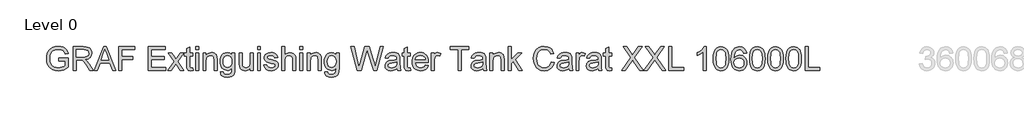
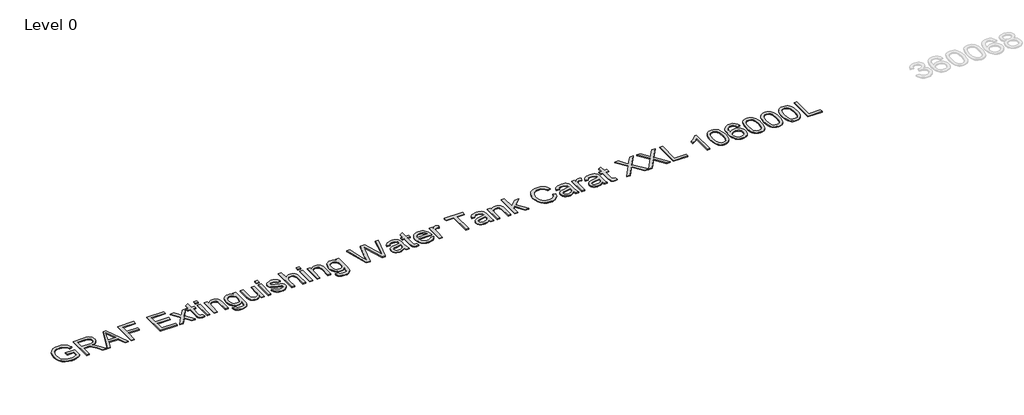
# One storey, part 23 of 37: 1 proxy.
"""IFC4 building model written with IfcOpenShell, lengths in millimetres."""

from ifc_helpers import new_model, si_unit, origin, origin_with_axes, place, context, project, spatial, polyline, outline, extrude, element, save

model = new_model("IFC4")

# Units and contexts
model_context = context("Model", 3, world=origin())
ifc_project = project(units=[si_unit("LENGTHUNIT", "METRE", prefix="MILLI")], contexts=[model_context])

# Site, building, storey
site = spatial("IfcSite", under=ifc_project)
building = spatial("IfcBuilding", under=site)
storey = spatial("IfcBuildingStorey", under=building, Name="Level 0", Elevation=0.0)

# Proxy
placement = place(None, origin())
element("IfcBuildingElementProxy", 1, Name="300mm Arial", ObjectType="300mm Arial", at=placement, inside=storey, context=model_context, shape_type="SweptSolid", body=[
    extrude(outline(polyline([(16759.0059613, -29583.2545597), (16759.0059613, -29545.5834434), (16881.4370893, -29545.5834434), (16881.4370893, -29658.2289103), (16851.6846329, -29678.9222726), (16820.9940775, -29693.7663111), (16789.4389993, -29702.7058436), (16757.0929749, -29705.6856877), (16714.8325307, -29700.949207), (16676.6371825, -29686.739765), (16644.9073605, -29663.5540022), (16622.0434945, -29631.8885595), (16608.2203285, -29593.9047435), (16603.6126065, -29551.7638609), (16608.2019344, -29509.3194757), (16621.9699181, -29469.8365406), (16644.3463404, -29436.717964), (16674.7609844, -29413.3666543), (16711.8067013, -29399.5158972), (16754.0763425, -29394.8989782), (16785.1071888, -29397.5753197), (16813.0110382, -29405.6043443), (16836.5095006, -29418.4066377), (16854.3241862, -29435.4027859), (16867.5035587, -29457.4113262), (16877.0960817, -29485.2507962), (16842.3680214, -29495.0364573), (16834.6149083, -29475.1800266), (16825.1879322, -29460.1980323), (16812.7167326, -29448.9040551), (16795.830949, -29440.1116754), (16775.6986068, -29434.4554897), (16753.4877313, -29432.5700945), (16727.4876713, -29434.6026425), (16705.2584018, -29440.7002866), (16686.8826961, -29450.0996716), (16672.4433278, -29462.0374423), (16653.0559467, -29491.0633317), (16644.2267788, -29519.50061), (16641.2837228, -29550.2187566), (16644.824587, -29586.2436009), (16655.4471796, -29615.8856927), (16672.8296039, -29638.9334997), (16696.6499631, -29655.1754898), (16724.5262213, -29664.804801), (16754.0763425, -29668.0145714), (16780.168373, -29665.5957473), (16805.6166101, -29658.3392749), (16827.7171209, -29648.3420817), (16843.765973, -29637.701095), (16843.765973, -29583.2545597), (16759.0059613, -29583.2545597)])), origin_with_axes(), (0.0, 0.0, 1.0), 10.0),
    extrude(outline(polyline([(16942.6526533, -29700.9767982), (16942.6526533, -29399.6078677), (17072.5149976, -29399.6078677), (17107.4178018, -29401.6404158), (17132.8108566, -29407.7380598), (17151.3705032, -29418.9952489), (17165.7730833, -29436.5064318), (17175.0161185, -29458.2206666), (17178.0971302, -29482.087011), (17172.9927675, -29511.7750881), (17157.6796794, -29536.3863935), (17146.0799003, -29546.4157764), (17131.6980135, -29554.4310054), (17094.5879173, -29564.4190016), (17115.9986494, -29580.532233), (17146.532855, -29619.3069952), (17196.7855355, -29700.9767982), (17153.0075781, -29700.9767982), (17113.7913574, -29638.5104354), (17085.4644438, -29597.1604991), (17065.5620278, -29577.6259652), (17047.6461747, -29570.4522663), (17025.7939842, -29569.1278911), (16980.3237696, -29569.1278911), (16980.3237696, -29700.9767982), (16942.6526533, -29700.9767982)]), holes=[polyline([(16980.3237696, -29531.4567748), (17064.6423229, -29531.4567748), (17088.8581552, -29530.1232026), (17107.6477281, -29526.1224859), (17121.7927908, -29519.1879103), (17132.0750926, -29509.0527613), (17138.3382835, -29496.7930938), (17140.4260139, -29483.4849626), (17136.4436913, -29465.109257), (17124.4967235, -29450.3020067), (17103.941317, -29440.5347397), (17074.1336783, -29437.278984), (16980.3237696, -29437.278984), (16980.3237696, -29531.4567748)])]), origin_with_axes(), (0.0, 0.0, 1.0), 10.0),
    extrude(outline(polyline([(17208.9256414, -29700.9767982), (17329.2230538, -29399.6078677), (17361.3023638, -29399.6078677), (17481.5997762, -29700.9767982), (17441.7949443, -29700.9767982), (17407.2876132, -29606.7990074), (17283.164228, -29606.7990074), (17248.7304732, -29700.9767982), (17208.9256414, -29700.9767982)]), holes=[polyline([(17296.996591, -29569.1278911), (17393.5288265, -29569.1278911), (17366.3791353, -29495.0364573), (17345.2627088, -29437.278984), (17326.500727, -29488.5617342), (17296.996591, -29569.1278911)])]), origin_with_axes(), (0.0, 0.0, 1.0), 10.0),
    extrude(outline(polyline([(17521.8460665, -29700.9767982), (17521.8460665, -29399.6078677), (17724.3283166, -29399.6078677), (17724.3283166, -29437.278984), (17559.5171828, -29437.278984), (17559.5171828, -29526.7478853), (17700.7838689, -29526.7478853), (17700.7838689, -29564.4190016), (17559.5171828, -29564.4190016), (17559.5171828, -29700.9767982), (17521.8460665, -29700.9767982)])), origin_with_axes(), (0.0, 0.0, 1.0), 10.0),
    extrude(outline(polyline([(17893.84834, -29700.9767982), (17893.84834, -29399.6078677), (18110.4572587, -29399.6078677), (18110.4572587, -29437.278984), (17931.5194563, -29437.278984), (17931.5194563, -29526.7478853), (18101.0394797, -29526.7478853), (18101.0394797, -29564.4190016), (17931.5194563, -29564.4190016), (17931.5194563, -29663.3056819), (18115.1661483, -29663.3056819), (18115.1661483, -29700.9767982), (17893.84834, -29700.9767982)])), origin_with_axes(), (0.0, 0.0, 1.0), 10.0),
    extrude(outline(polyline([(18143.4194855, -29700.9767982), (18223.9120661, -29589.7292828), (18148.1283751, -29479.6589899), (18193.4514369, -29479.6589899), (18230.0189072, -29532.6339972), (18247.0886318, -29557.6499729), (18261.877488, -29537.1957339), (18303.5217298, -29479.6589899), (18348.8447916, -29479.6589899), (18269.2351279, -29589.7292828), (18345.9017357, -29700.9767982), (18300.5786739, -29700.9767982), (18254.4462717, -29634.0958515), (18245.9849858, -29621.8821692), (18188.7425473, -29700.9767982), (18143.4194855, -29700.9767982)])), origin_with_axes(), (0.0, 0.0, 1.0), 10.0),
    extrude(outline(polyline([(18458.9150846, -29669.5596758), (18463.6239741, -29702.0804442), (18435.4442133, -29705.6856877), (18417.3628132, -29704.1221892), (18403.8799381, -29699.4316938), (18394.3517944, -29692.2028126), (18388.1345887, -29683.0241568), (18384.7132861, -29667.2604133), (18383.572852, -29640.276269), (18383.572852, -29517.3301062), (18355.3195147, -29517.3301062), (18355.3195147, -29479.6589899), (18383.572852, -29479.6589899), (18383.572852, -29425.8746422), (18421.2439683, -29403.7281461), (18421.2439683, -29479.6589899), (18458.9150846, -29479.6589899), (18458.9150846, -29517.3301062), (18421.2439683, -29517.3301062), (18421.2439683, -29639.172623), (18423.230531, -29658.5967923), (18429.668466, -29665.4761856), (18442.5075476, -29668.0145714), (18458.9150846, -29669.5596758)])), origin_with_axes(), (0.0, 0.0, 1.0), 10.0),
    extrude(outline(polyline([(18496.5862009, -29437.278984), (18496.5862009, -29399.6078677), (18534.2573172, -29399.6078677), (18534.2573172, -29437.278984), (18496.5862009, -29437.278984)])), origin_with_axes(), (0.0, 0.0, 1.0), 10.0),
    extrude(outline(polyline([(18496.5862009, -29700.9767982), (18496.5862009, -29479.6589899), (18534.2573172, -29479.6589899), (18534.2573172, -29700.9767982), (18496.5862009, -29700.9767982)])), origin_with_axes(), (0.0, 0.0, 1.0), 10.0),
    extrude(outline(polyline([(18590.7639916, -29700.9767982), (18590.7639916, -29479.6589899), (18628.435108, -29479.6589899), (18628.435108, -29510.5610775), (18641.5225099, -29494.981275), (18657.2402682, -29483.8528446), (18675.5883827, -29477.1757864), (18696.5668535, -29474.9501003), (18715.1356972, -29476.7435251), (18732.1410424, -29482.1237992), (18746.3228933, -29490.4195382), (18756.4212541, -29500.9593574), (18767.7152313, -29528.6608716), (18769.7017941, -29565.0811892), (18769.7017941, -29700.9767982), (18732.0306778, -29700.9767982), (18732.0306778, -29570.1579607), (18727.6896703, -29536.8278519), (18721.6839967, -29526.9042351), (18712.3489911, -29519.2063044), (18700.3836292, -29514.2674886), (18686.4868868, -29512.6212166), (18664.4231641, -29516.3184307), (18645.6151971, -29527.4100729), (18638.0989081, -29536.4645685), (18632.7301302, -29548.8391991), (18628.435108, -29583.5488653), (18628.435108, -29700.9767982), (18590.7639916, -29700.9767982)])), origin_with_axes(), (0.0, 0.0, 1.0), 10.0),
    extrude(outline(polyline([(18812.0817999, -29719.8123563), (18849.7529163, -29724.5212459), (18853.9099828, -29736.2934697), (18861.9665985, -29744.3868736), (18877.8039184, -29750.6776557), (18898.5340688, -29752.7745831), (18920.6437767, -29750.4017442), (18937.0881019, -29743.2832276), (18948.4924438, -29731.8788858), (18955.4822017, -29716.6485712), (18958.0573756, -29672.7234609), (18945.5217966, -29685.084296), (18931.5330838, -29693.9134639), (18916.091237, -29699.2109646), (18899.1962564, -29700.9767982), (18878.5419816, -29698.9212575), (18860.3571148, -29692.7546356), (18844.6416558, -29682.4769323), (18831.3956047, -29668.0881478), (18820.8856759, -29650.8252852), (18813.378584, -29631.9253477), (18808.8743288, -29611.3883353), (18807.3729104, -29589.214248), (18810.067646, -29558.7996041), (18818.1518529, -29530.8313754), (18831.3404224, -29507.1305779), (18849.3482461, -29489.5182274), (18871.5591215, -29478.5921321), (18897.3568464, -29474.9501003), (18914.9737955, -29477.0102395), (18930.9628667, -29483.190657), (18945.3240601, -29493.4913529), (18958.0573756, -29507.9123271), (18958.0573756, -29479.6589899), (18995.7284919, -29479.6589899), (18995.7284919, -29670.7368982), (18993.153318, -29714.8551464), (18985.4277961, -29743.908627), (18972.1196649, -29763.1764465), (18952.7966631, -29777.9377116), (18927.881855, -29787.3187024), (18897.7983048, -29790.4456994), (18862.7483477, -29786.0403125), (18835.148001, -29772.8241518), (18824.7530354, -29762.9028343), (18817.44368, -29750.7604292), (18813.2199349, -29736.3969365), (18812.0817999, -29719.8123563)]), holes=[polyline([(18845.0440267, -29586.6390741), (18849.0631375, -29621.1923905), (18861.1204699, -29644.9483703), (18879.2478552, -29658.716354), (18901.4771248, -29663.3056819), (18923.5408474, -29658.7439451), (18941.7602032, -29645.0587349), (18953.9830825, -29621.6062577), (18958.0573756, -29587.7427201), (18953.8635209, -29555.0839959), (18941.2819567, -29531.5671394), (18922.7958864, -29517.3576973), (18900.8885136, -29512.6212166), (18879.3766139, -29517.2841209), (18861.3411991, -29531.2728338), (18849.1183198, -29554.4402024), (18845.0440267, -29586.6390741)])]), origin_with_axes(), (0.0, 0.0, 1.0), 10.0),
    extrude(outline(polyline([(19193.5018525, -29700.9767982), (19193.5018525, -29662.9377999), (19179.8718246, -29681.6400008), (19163.9977165, -29694.9987158), (19145.8795283, -29703.0139447), (19125.5172598, -29705.6856877), (19107.1691453, -29703.8094895), (19090.0902237, -29698.180895), (19075.76122, -29689.7196091), (19065.6628592, -29679.3453369), (19054.4424584, -29651.6070344), (19052.2351664, -29616.5846685), (19052.2351664, -29479.6589899), (19089.9062827, -29479.6589899), (19089.9062827, -29598.8527563), (19092.1871511, -29637.2596366), (19097.6777899, -29650.0711271), (19107.0863719, -29659.8108029), (19119.7874978, -29665.9636293), (19135.1557681, -29668.0145714), (19151.4069552, -29665.917644), (19166.6096787, -29659.6268619), (19179.1452577, -29649.7216392), (19187.3950114, -29636.78139), (19191.9751423, -29619.0586749), (19193.5018525, -29594.8060544), (19193.5018525, -29479.6589899), (19231.1729689, -29479.6589899), (19231.1729689, -29700.9767982), (19193.5018525, -29700.9767982)])), origin_with_axes(), (0.0, 0.0, 1.0), 10.0),
    extrude(outline(polyline([(19282.9707538, -29437.278984), (19282.9707538, -29399.6078677), (19320.6418701, -29399.6078677), (19320.6418701, -29437.278984), (19282.9707538, -29437.278984)])), origin_with_axes(), (0.0, 0.0, 1.0), 10.0),
    extrude(outline(polyline([(19282.9707538, -29700.9767982), (19282.9707538, -29479.6589899), (19320.6418701, -29479.6589899), (19320.6418701, -29700.9767982), (19282.9707538, -29700.9767982)])), origin_with_axes(), (0.0, 0.0, 1.0), 10.0),
    extrude(outline(polyline([(19363.0218759, -29635.0523446), (19400.6929922, -29630.3434551), (19406.6342865, -29646.4566865), (19418.1305988, -29658.3024867), (19435.2555057, -29665.5865502), (19458.0825835, -29668.0145714), (19480.6337498, -29665.7888853), (19496.4894638, -29659.1118271), (19505.8704547, -29649.4365307), (19508.9974516, -29638.2161298), (19505.8520606, -29628.6144097), (19496.4158874, -29621.293558), (19457.6411251, -29610.5514038), (19400.9137214, -29592.1205158), (19386.5571266, -29582.8590866), (19376.1552632, -29570.5994191), (19369.8368899, -29556.1232626), (19367.7307655, -29540.2123663), (19369.4230226, -29525.6166481), (19374.4997942, -29512.1429701), (19382.5012276, -29500.324761), (19392.9674703, -29490.6954497), (19416.9165882, -29479.5486253), (19449.326992, -29474.9501003), (19473.846327, -29476.7987074), (19495.1650886, -29482.3445284), (19512.3083896, -29491.0449376), (19524.3013426, -29502.357309), (19532.2475937, -29517.118574), (19537.2507888, -29536.1656643), (19499.5796725, -29540.8745539), (19494.8247977, -29529.0195566), (19485.4162157, -29520.0892211), (19471.261956, -29514.4882178), (19452.270048, -29512.6212166), (19430.6385866, -29514.4054443), (19416.2176124, -29519.7581274), (19408.1058144, -29527.4836493), (19405.4018818, -29536.3863935), (19409.8900421, -29547.349277), (19423.9431343, -29555.6634101), (19456.3903263, -29563.6832376), (19511.6829902, -29581.4151497), (19526.2879054, -29589.8948297), (19537.3611534, -29601.5015067), (19544.3417143, -29616.2719688), (19546.6685679, -29634.2430043), (19543.9370441, -29652.821045), (19535.7424727, -29670.2954398), (19522.3975533, -29685.2958281), (19504.2149857, -29696.4518496), (19482.2524306, -29703.3772282), (19457.5675487, -29705.6856877), (19419.5837327, -29701.2343156), (19391.8638243, -29687.8801992), (19373.35936, -29665.7704912), (19363.0218759, -29635.0523446)])), origin_with_axes(), (0.0, 0.0, 1.0), 10.0),
    extrude(outline(polyline([(19589.0485738, -29700.9767982), (19589.0485738, -29399.6078677), (19626.7196901, -29399.6078677), (19626.7196901, -29510.4139247), (19640.5566516, -29494.8985015), (19656.0950674, -29483.8160564), (19673.3349374, -29477.1665894), (19692.2762616, -29474.9501003), (19715.029763, -29477.3689245), (19734.5826911, -29484.6253968), (19749.9785526, -29496.1493003), (19760.2608543, -29511.3704179), (19766.0549957, -29532.2845093), (19767.9863762, -29560.8873344), (19767.9863762, -29700.9767982), (19730.3152599, -29700.9767982), (19730.3152599, -29564.7868836), (19727.3170216, -29541.2056477), (19718.3223069, -29525.0556281), (19703.8277563, -29515.7298195), (19684.3300105, -29512.6212166), (19668.4099172, -29514.718144), (19653.4647111, -29521.0089261), (19641.085482, -29530.8865577), (19632.8633194, -29543.7440334), (19628.2555974, -29560.8321521), (19626.7196901, -29583.4017125), (19626.7196901, -29700.9767982), (19589.0485738, -29700.9767982)])), origin_with_axes(), (0.0, 0.0, 1.0), 10.0),
    extrude(outline(polyline([(19819.7841611, -29437.278984), (19819.7841611, -29399.6078677), (19857.4552774, -29399.6078677), (19857.4552774, -29437.278984), (19819.7841611, -29437.278984)])), origin_with_axes(), (0.0, 0.0, 1.0), 10.0),
    extrude(outline(polyline([(19819.7841611, -29700.9767982), (19819.7841611, -29479.6589899), (19857.4552774, -29479.6589899), (19857.4552774, -29700.9767982), (19819.7841611, -29700.9767982)])), origin_with_axes(), (0.0, 0.0, 1.0), 10.0),
    extrude(outline(polyline([(19913.9619519, -29700.9767982), (19913.9619519, -29479.6589899), (19951.6330682, -29479.6589899), (19951.6330682, -29510.5610775), (19964.7204702, -29494.981275), (19980.4382284, -29483.8528446), (19998.7863429, -29477.1757864), (20019.7648137, -29474.9501003), (20038.3336574, -29476.7435251), (20055.3390026, -29482.1237992), (20069.5208536, -29490.4195382), (20079.6192143, -29500.9593574), (20090.9131916, -29528.6608716), (20092.8997544, -29565.0811892), (20092.8997544, -29700.9767982), (20055.228638, -29700.9767982), (20055.228638, -29570.1579607), (20050.8876305, -29536.8278519), (20044.8819569, -29526.9042351), (20035.5469513, -29519.2063044), (20023.5815894, -29514.2674886), (20009.684847, -29512.6212166), (19987.6211244, -29516.3184307), (19968.8131574, -29527.4100729), (19961.2968684, -29536.4645685), (19955.9280905, -29548.8391991), (19951.6330682, -29583.5488653), (19951.6330682, -29700.9767982), (19913.9619519, -29700.9767982)])), origin_with_axes(), (0.0, 0.0, 1.0), 10.0),
    extrude(outline(polyline([(20135.2797602, -29719.8123563), (20172.9508765, -29724.5212459), (20177.1079431, -29736.2934697), (20185.1645587, -29744.3868736), (20201.0018786, -29750.6776557), (20221.7320291, -29752.7745831), (20243.841737, -29750.4017442), (20260.2860622, -29743.2832276), (20271.690404, -29731.8788858), (20278.6801619, -29716.6485712), (20281.2553359, -29672.7234609), (20268.7197569, -29685.084296), (20254.731044, -29693.9134639), (20239.2891973, -29699.2109646), (20222.3942167, -29700.9767982), (20201.7399419, -29698.9212575), (20183.555075, -29692.7546356), (20167.839616, -29682.4769323), (20154.5935649, -29668.0881478), (20144.0836362, -29650.8252852), (20136.5765442, -29631.9253477), (20132.0722891, -29611.3883353), (20130.5708707, -29589.214248), (20133.2656063, -29558.7996041), (20141.3498131, -29530.8313754), (20154.5383826, -29507.1305779), (20172.5462063, -29489.5182274), (20194.7570818, -29478.5921321), (20220.5548067, -29474.9501003), (20238.1717557, -29477.0102395), (20254.1608269, -29483.190657), (20268.5220203, -29493.4913529), (20281.2553359, -29507.9123271), (20281.2553359, -29479.6589899), (20318.9264522, -29479.6589899), (20318.9264522, -29670.7368982), (20316.3512782, -29714.8551464), (20308.6257563, -29743.908627), (20295.3176252, -29763.1764465), (20275.9946234, -29777.9377116), (20251.0798152, -29787.3187024), (20220.9962651, -29790.4456994), (20185.946308, -29786.0403125), (20158.3459613, -29772.8241518), (20147.9509957, -29762.9028343), (20140.6416403, -29750.7604292), (20136.4178951, -29736.3969365), (20135.2797602, -29719.8123563)]), holes=[polyline([(20168.241987, -29586.6390741), (20172.2610978, -29621.1923905), (20184.3184302, -29644.9483703), (20202.4458155, -29658.716354), (20224.675085, -29663.3056819), (20246.7388077, -29658.7439451), (20264.9581635, -29645.0587349), (20277.1810428, -29621.6062577), (20281.2553359, -29587.7427201), (20277.0614811, -29555.0839959), (20264.4799169, -29531.5671394), (20245.9938466, -29517.3576973), (20224.0864738, -29512.6212166), (20202.5745742, -29517.2841209), (20184.5391594, -29531.2728338), (20172.3162801, -29554.4402024), (20168.241987, -29586.6390741)])]), origin_with_axes(), (0.0, 0.0, 1.0), 10.0),
    extrude(outline(polyline([(20551.7957551, -29700.9767982), (20469.6109174, -29399.6078677), (20508.4592561, -29399.6078677), (20556.1367627, -29597.6755339), (20570.8520425, -29658.8175215), (20586.5973919, -29604.7388682), (20646.3414279, -29399.6078677), (20702.3330676, -29399.6078677), (20745.743143, -29548.3057702), (20764.3395779, -29603.4880695), (20778.0431822, -29658.8175215), (20792.3170036, -29599.4413675), (20840.4359686, -29399.6078677), (20879.2843072, -29399.6078677), (20797.0258931, -29700.9767982), (20756.7796029, -29700.9767982), (20684.527579, -29468.4753772), (20674.4476123, -29436.0281853), (20663.1168469, -29475.0972531), (20597.2659697, -29700.9767982), (20551.7957551, -29700.9767982)])), origin_with_axes(), (0.0, 0.0, 1.0), 10.0),
    extrude(outline(polyline([(21053.5132202, -29672.7234609), (21035.5145935, -29688.1561106), (21016.982538, -29698.2544714), (20997.4939893, -29703.8278836), (20976.6258832, -29705.6856877), (20945.1443814, -29701.2159215), (20921.9218305, -29687.8066228), (20907.6020238, -29667.4443543), (20902.8287549, -29642.115679), (20904.6313767, -29626.4990883), (20910.039242, -29612.3172373), (20918.3809663, -29600.1771315), (20928.9851648, -29590.685776), (20955.3623038, -29578.324941), (20987.9566486, -29572.6595583), (21026.4738935, -29566.6998699), (21053.292491, -29559.710112), (21053.5132202, -29551.3224025), (21050.9196521, -29534.5101954), (21043.1389479, -29523.5105237), (21025.7381295, -29515.3435434), (21001.494706, -29512.6212166), (20979.0539043, -29514.4330355), (20963.3821313, -29519.868492), (20952.6951594, -29529.9208675), (20945.2087608, -29545.5834434), (20907.5376445, -29540.8745539), (20914.0767469, -29520.2731621), (20923.8348169, -29504.0863544), (20937.7223622, -29491.7071252), (20956.6498908, -29482.5284694), (20979.7988654, -29476.8446926), (21006.3507484, -29474.9501003), (21031.8173795, -29476.6239634), (21052.004904, -29481.6455527), (21067.2260215, -29489.1963306), (21077.7934318, -29498.4577598), (21084.8015838, -29509.9080869), (21089.3449265, -29524.0255585), (21091.1843365, -29556.9877853), (21091.1843365, -29603.8559515), (21093.0973228, -29669.3021584), (21100.6021155, -29700.9767982), (21062.9309992, -29700.9767982), (21053.5132202, -29672.7234609)]), holes=[polyline([(21053.5132202, -29597.3812283), (20992.7391146, -29608.932723), (20960.3287108, -29615.0395641), (20945.6502192, -29624.972378), (20940.4998712, -29639.4669286), (20943.3049715, -29650.6689353), (20951.7202721, -29659.8475911), (20965.5618322, -29665.9728263), (20984.6457107, -29668.0145714), (21004.8792204, -29665.7612942), (21022.7582854, -29659.0014625), (21037.252836, -29649.0410575), (21047.3328026, -29637.1860602), (21051.8025689, -29624.972378), (21053.292491, -29608.0498062), (21053.5132202, -29597.3812283)])]), origin_with_axes(), (0.0, 0.0, 1.0), 10.0),
    extrude(outline(polyline([(21223.0332435, -29669.5596758), (21227.7421331, -29702.0804442), (21199.5623722, -29705.6856877), (21181.4809722, -29704.1221892), (21167.9980971, -29699.4316938), (21158.4699534, -29692.2028126), (21152.2527477, -29683.0241568), (21148.8314451, -29667.2604133), (21147.6910109, -29640.276269), (21147.6910109, -29517.3301062), (21119.4376737, -29517.3301062), (21119.4376737, -29479.6589899), (21147.6910109, -29479.6589899), (21147.6910109, -29425.8746422), (21185.3621272, -29403.7281461), (21185.3621272, -29479.6589899), (21223.0332435, -29479.6589899), (21223.0332435, -29517.3301062), (21185.3621272, -29517.3301062), (21185.3621272, -29639.172623), (21187.34869, -29658.5967923), (21193.7866249, -29665.4761856), (21206.6257066, -29668.0145714), (21223.0332435, -29669.5596758)])), origin_with_axes(), (0.0, 0.0, 1.0), 10.0),
    extrude(outline(polyline([(21415.6562562, -29635.0523446), (21452.5916085, -29639.7612342), (21439.2834774, -29667.5915071), (21418.0474892, -29688.3952339), (21389.3618906, -29701.3630743), (21353.7049282, -29705.6856877), (21330.330626, -29703.8209859), (21309.5039065, -29698.2268803), (21291.2247699, -29688.9033709), (21275.493216, -29675.8504579), (21262.8426739, -29659.4314246), (21253.8065724, -29640.0095545), (21248.3849115, -29617.5848477), (21246.5776912, -29592.157304), (21248.4033056, -29565.8675369), (21253.8801488, -29542.6955698), (21263.0082208, -29522.6414025), (21275.7875216, -29505.7050351), (21291.4776887, -29492.2497512), (21309.3383596, -29482.638834), (21329.3695342, -29476.8722838), (21351.5712127, -29474.9501003), (21373.0578204, -29476.8676852), (21392.4888876, -29482.6204399), (21409.8644141, -29492.2083644), (21425.1843999, -29505.6314587), (21437.6900885, -29522.5310379), (21446.6227232, -29542.548417), (21451.982304, -29565.6835959), (21453.7688309, -29591.9365748), (21453.5481017, -29602.0901179), (21284.2488075, -29602.0901179), (21290.7695159, -29630.2882728), (21305.9170571, -29651.0184232), (21327.7784446, -29663.7655344), (21354.4406922, -29668.0145714), (21374.490261, -29666.0464027), (21391.3760445, -29660.1418967), (21405.098043, -29649.9331713), (21415.6562562, -29635.0523446)]), holes=[polyline([(21284.2488075, -29564.4190016), (21416.0977146, -29564.4190016), (21411.002549, -29544.5165856), (21401.0145528, -29530.2795524), (21379.0519977, -29517.0358006), (21351.4240599, -29512.6212166), (21326.0310051, -29516.1436868), (21305.0341403, -29526.7110971), (21290.4384221, -29543.1830134), (21284.2488075, -29564.4190016)])]), origin_with_axes(), (0.0, 0.0, 1.0), 10.0),
    extrude(outline(polyline([(21491.4399472, -29700.9767982), (21491.4399472, -29479.6589899), (21524.402174, -29479.6589899), (21524.402174, -29512.4004875), (21536.579068, -29493.4177765), (21547.7994689, -29482.2341638), (21559.0566579, -29476.7711162), (21571.3439166, -29474.9501003), (21590.1058983, -29477.8563681), (21609.1621857, -29486.5751714), (21596.5806214, -29520.3467385), (21583.3368696, -29514.5525971), (21570.0931178, -29512.6212166), (21558.8451258, -29514.4790207), (21548.7927503, -29520.052433), (21540.6717552, -29528.918389), (21535.2179046, -29540.6538247), (21530.6377738, -29561.6966748), (21529.1110635, -29584.6525113), (21529.1110635, -29700.9767982), (21491.4399472, -29700.9767982)])), origin_with_axes(), (0.0, 0.0, 1.0), 10.0),
    extrude(outline(polyline([(21830.479994, -29700.9767982), (21830.479994, -29437.278984), (21731.5933137, -29437.278984), (21731.5933137, -29399.6078677), (21967.0377906, -29399.6078677), (21967.0377906, -29437.278984), (21868.1511103, -29437.278984), (21868.1511103, -29700.9767982), (21830.479994, -29700.9767982)])), origin_with_axes(), (0.0, 0.0, 1.0), 10.0),
    extrude(outline(polyline([(22145.975593, -29672.7234609), (22127.9769664, -29688.1561106), (22109.4449109, -29698.2544714), (22089.9563622, -29703.8278836), (22069.088256, -29705.6856877), (22037.6067543, -29701.2159215), (22014.3842034, -29687.8066228), (22000.0643967, -29667.4443543), (21995.2911278, -29642.115679), (21997.0937496, -29626.4990883), (22002.5016149, -29612.3172373), (22010.8433392, -29600.1771315), (22021.4475377, -29590.685776), (22047.8246767, -29578.324941), (22080.4190215, -29572.6595583), (22118.9362664, -29566.6998699), (22145.7548638, -29559.710112), (22145.975593, -29551.3224025), (22143.382025, -29534.5101954), (22135.6013208, -29523.5105237), (22118.2005024, -29515.3435434), (22093.9570789, -29512.6212166), (22071.5162772, -29514.4330355), (22055.8445042, -29519.868492), (22045.1575323, -29529.9208675), (22037.6711337, -29545.5834434), (22000.0000174, -29540.8745539), (22006.5391198, -29520.2731621), (22016.2971897, -29504.0863544), (22030.1847351, -29491.7071252), (22049.1122637, -29482.5284694), (22072.2612383, -29476.8446926), (22098.8131213, -29474.9501003), (22124.2797524, -29476.6239634), (22144.4672769, -29481.6455527), (22159.6883944, -29489.1963306), (22170.2558047, -29498.4577598), (22177.2639567, -29509.9080869), (22181.8072994, -29524.0255585), (22183.6467093, -29556.9877853), (22183.6467093, -29603.8559515), (22185.5596957, -29669.3021584), (22193.0644884, -29700.9767982), (22155.3933721, -29700.9767982), (22145.975593, -29672.7234609)]), holes=[polyline([(22145.975593, -29597.3812283), (22085.2014874, -29608.932723), (22052.7910837, -29615.0395641), (22038.1125921, -29624.972378), (22032.9622441, -29639.4669286), (22035.7673443, -29650.6689353), (22044.182645, -29659.8475911), (22058.024205, -29665.9728263), (22077.1080835, -29668.0145714), (22097.3415933, -29665.7612942), (22115.2206582, -29659.0014625), (22129.7152089, -29649.0410575), (22139.7951755, -29637.1860602), (22144.2649418, -29624.972378), (22145.7548638, -29608.0498062), (22145.975593, -29597.3812283)])]), origin_with_axes(), (0.0, 0.0, 1.0), 10.0),
    extrude(outline(polyline([(22235.4444943, -29700.9767982), (22235.4444943, -29479.6589899), (22273.1156106, -29479.6589899), (22273.1156106, -29510.5610775), (22286.2030125, -29494.981275), (22301.9207708, -29483.8528446), (22320.2688853, -29477.1757864), (22341.2473561, -29474.9501003), (22359.8161998, -29476.7435251), (22376.821545, -29482.1237992), (22391.0033959, -29490.4195382), (22401.1017567, -29500.9593574), (22412.3957339, -29528.6608716), (22414.3822967, -29565.0811892), (22414.3822967, -29700.9767982), (22376.7111804, -29700.9767982), (22376.7111804, -29570.1579607), (22372.3701729, -29536.8278519), (22366.3644993, -29526.9042351), (22357.0294937, -29519.2063044), (22345.0641318, -29514.2674886), (22331.1673894, -29512.6212166), (22309.1036667, -29516.3184307), (22290.2956997, -29527.4100729), (22282.7794107, -29536.4645685), (22277.4106329, -29548.8391991), (22273.1156106, -29583.5488653), (22273.1156106, -29700.9767982), (22235.4444943, -29700.9767982)])), origin_with_axes(), (0.0, 0.0, 1.0), 10.0),
    extrude(outline(polyline([(22466.1800816, -29700.9767982), (22466.1800816, -29399.6078677), (22503.8511979, -29399.6078677), (22503.8511979, -29561.549522), (22588.316904, -29479.6589899), (22640.4089946, -29479.6589899), (22554.9132189, -29562.5795916), (22645.1178841, -29700.9767982), (22601.1191975, -29700.9767982), (22527.9106804, -29588.7727896), (22503.8511979, -29612.0965081), (22503.8511979, -29700.9767982), (22466.1800816, -29700.9767982)])), origin_with_axes(), (0.0, 0.0, 1.0), 10.0),
    extrude(outline(polyline([(23012.4112681, -29593.8495612), (23050.0823844, -29603.5616459), (23042.6281755, -29626.9888312), (23032.6999601, -29647.4591649), (23020.2977383, -29664.9726472), (23005.4215102, -29679.5292779), (22988.4069679, -29690.9727072), (22969.5898038, -29699.1465853), (22948.970018, -29704.0509121), (22926.5476104, -29705.6856877), (22882.8524264, -29700.7376749), (22848.1519572, -29685.8936364), (22821.554089, -29661.668607), (22802.1667078, -29628.5776215), (22790.3301046, -29589.6741005), (22786.3845702, -29548.0114646), (22790.8451394, -29504.0679603), (22804.226847, -29466.1209325), (22825.8307172, -29435.3751947), (22854.9577741, -29413.0355606), (22889.5018935, -29399.4331238), (22927.3569508, -29394.8989782), (22968.6609018, -29400.766696), (22986.629638, -29408.1013433), (23002.809548, -29418.3698495), (23016.9339174, -29431.3009016), (23028.7360316, -29446.6231867), (23045.3734948, -29484.4414558), (23007.7023785, -29493.4177765), (22994.6425677, -29465.9461885), (22976.8002909, -29447.1014333), (22953.954819, -29436.2029292), (22925.8854228, -29432.5700945), (22893.5302013, -29436.5984023), (22866.9507272, -29448.6833259), (22846.7815968, -29467.5556722), (22833.6574066, -29491.9462485), (22826.4561166, -29519.5190041), (22824.0556865, -29547.9378882), (22826.897575, -29582.7395249), (22835.4232402, -29612.8322721), (22849.954579, -29637.0664986), (22870.8134881, -29654.292573), (22895.8202668, -29664.5840718), (22922.7952141, -29668.0145714), (22954.2399276, -29663.3424701), (22980.4423227, -29649.3261661), (23000.225177, -29626.1128122), (23012.4112681, -29593.8495612)])), origin_with_axes(), (0.0, 0.0, 1.0), 10.0),
    extrude(outline(polyline([(23238.4379659, -29672.7234609), (23220.4393393, -29688.1561106), (23201.9072838, -29698.2544714), (23182.4187351, -29703.8278836), (23161.5506289, -29705.6856877), (23130.0691272, -29701.2159215), (23106.8465762, -29687.8066228), (23092.5267696, -29667.4443543), (23087.7535007, -29642.115679), (23089.5561225, -29626.4990883), (23094.9639878, -29612.3172373), (23103.305712, -29600.1771315), (23113.9099105, -29590.685776), (23140.2870496, -29578.324941), (23172.8813944, -29572.6595583), (23211.3986393, -29566.6998699), (23238.2172367, -29559.710112), (23238.4379659, -29551.3224025), (23235.8443978, -29534.5101954), (23228.0636936, -29523.5105237), (23210.6628753, -29515.3435434), (23186.4194518, -29512.6212166), (23163.9786501, -29514.4330355), (23148.3068771, -29519.868492), (23137.6199051, -29529.9208675), (23130.1335065, -29545.5834434), (23092.4623902, -29540.8745539), (23099.0014927, -29520.2731621), (23108.7595626, -29504.0863544), (23122.6471079, -29491.7071252), (23141.5746366, -29482.5284694), (23164.7236111, -29476.8446926), (23191.2754941, -29474.9501003), (23216.7421252, -29476.6239634), (23236.9296497, -29481.6455527), (23252.1507673, -29489.1963306), (23262.7181776, -29498.4577598), (23269.7263296, -29509.9080869), (23274.2696722, -29524.0255585), (23276.1090822, -29556.9877853), (23276.1090822, -29603.8559515), (23278.0220686, -29669.3021584), (23285.5268613, -29700.9767982), (23247.855745, -29700.9767982), (23238.4379659, -29672.7234609)]), holes=[polyline([(23238.4379659, -29597.3812283), (23177.6638603, -29608.932723), (23145.2534565, -29615.0395641), (23130.5749649, -29624.972378), (23125.424617, -29639.4669286), (23128.2297172, -29650.6689353), (23136.6450178, -29659.8475911), (23150.4865779, -29665.9728263), (23169.5704564, -29668.0145714), (23189.8039662, -29665.7612942), (23207.6830311, -29659.0014625), (23222.1775817, -29649.0410575), (23232.2575484, -29637.1860602), (23236.7273146, -29624.972378), (23238.2172367, -29608.0498062), (23238.4379659, -29597.3812283)])]), origin_with_axes(), (0.0, 0.0, 1.0), 10.0),
    extrude(outline(polyline([(23327.9068671, -29700.9767982), (23327.9068671, -29479.6589899), (23360.8690939, -29479.6589899), (23360.8690939, -29512.4004875), (23373.0459879, -29493.4177765), (23384.2663888, -29482.2341638), (23395.5235779, -29476.7711162), (23407.8108365, -29474.9501003), (23426.5728182, -29477.8563681), (23445.6291056, -29486.5751714), (23433.0475414, -29520.3467385), (23419.8037895, -29514.5525971), (23406.5600377, -29512.6212166), (23395.3120457, -29514.4790207), (23385.2596702, -29520.052433), (23377.1386751, -29528.918389), (23371.6848246, -29540.6538247), (23367.1046937, -29561.6966748), (23365.5779834, -29584.6525113), (23365.5779834, -29700.9767982), (23327.9068671, -29700.9767982)])), origin_with_axes(), (0.0, 0.0, 1.0), 10.0),
    extrude(outline(polyline([(23610.4402394, -29672.7234609), (23592.4416128, -29688.1561106), (23573.9095573, -29698.2544714), (23554.4210086, -29703.8278836), (23533.5529024, -29705.6856877), (23502.0714007, -29701.2159215), (23478.8488498, -29687.8066228), (23464.5290431, -29667.4443543), (23459.7557742, -29642.115679), (23461.558396, -29626.4990883), (23466.9662613, -29612.3172373), (23475.3079856, -29600.1771315), (23485.9121841, -29590.685776), (23512.2893231, -29578.324941), (23544.8836679, -29572.6595583), (23583.4009128, -29566.6998699), (23610.2195102, -29559.710112), (23610.4402394, -29551.3224025), (23607.8466714, -29534.5101954), (23600.0659672, -29523.5105237), (23582.6651488, -29515.3435434), (23558.4217253, -29512.6212166), (23535.9809236, -29514.4330355), (23520.3091506, -29519.868492), (23509.6221787, -29529.9208675), (23502.1357801, -29545.5834434), (23464.4646638, -29540.8745539), (23471.0037662, -29520.2731621), (23480.7618361, -29504.0863544), (23494.6493815, -29491.7071252), (23513.5769101, -29482.5284694), (23536.7258847, -29476.8446926), (23563.2777677, -29474.9501003), (23588.7443988, -29476.6239634), (23608.9319233, -29481.6455527), (23624.1530408, -29489.1963306), (23634.7204511, -29498.4577598), (23641.7286031, -29509.9080869), (23646.2719458, -29524.0255585), (23648.1113557, -29556.9877853), (23648.1113557, -29603.8559515), (23650.0243421, -29669.3021584), (23657.5291348, -29700.9767982), (23619.8580185, -29700.9767982), (23610.4402394, -29672.7234609)]), holes=[polyline([(23610.4402394, -29597.3812283), (23549.6661338, -29608.932723), (23517.2557301, -29615.0395641), (23502.5772385, -29624.972378), (23497.4268905, -29639.4669286), (23500.2319907, -29650.6689353), (23508.6472914, -29659.8475911), (23522.4888514, -29665.9728263), (23541.5727299, -29668.0145714), (23561.8062397, -29665.7612942), (23579.6853046, -29659.0014625), (23594.1798552, -29649.0410575), (23604.2598219, -29637.1860602), (23608.7295882, -29624.972378), (23610.2195102, -29608.0498062), (23610.4402394, -29597.3812283)])]), origin_with_axes(), (0.0, 0.0, 1.0), 10.0),
    extrude(outline(polyline([(23779.9602628, -29669.5596758), (23784.6691524, -29702.0804442), (23756.4893915, -29705.6856877), (23738.4079915, -29704.1221892), (23724.9251163, -29699.4316938), (23715.3969727, -29692.2028126), (23709.1797669, -29683.0241568), (23705.7584644, -29667.2604133), (23704.6180302, -29640.276269), (23704.6180302, -29517.3301062), (23676.364693, -29517.3301062), (23676.364693, -29479.6589899), (23704.6180302, -29479.6589899), (23704.6180302, -29425.8746422), (23742.2891465, -29403.7281461), (23742.2891465, -29479.6589899), (23779.9602628, -29479.6589899), (23779.9602628, -29517.3301062), (23742.2891465, -29517.3301062), (23742.2891465, -29639.172623), (23744.2757093, -29658.5967923), (23750.7136442, -29665.4761856), (23763.5527258, -29668.0145714), (23779.9602628, -29669.5596758)])), origin_with_axes(), (0.0, 0.0, 1.0), 10.0),
    extrude(outline(polyline([(23907.1002803, -29700.9767982), (24023.2774144, -29536.7542755), (23925.9358385, -29399.6078677), (23971.1117475, -29399.6078677), (24025.9261648, -29476.7895103), (24044.3938409, -29506.8822575), (24066.0253023, -29476.2744755), (24120.2511084, -29399.6078677), (24166.089205, -29399.6078677), (24068.747629, -29537.1957339), (24184.9247631, -29700.9767982), (24139.7488541, -29700.9767982), (24062.3464823, -29591.789422), (24046.2332509, -29569.1278911), (24028.5013388, -29593.996714), (23952.9383769, -29700.9767982), (23907.1002803, -29700.9767982)])), origin_with_axes(), (0.0, 0.0, 1.0), 10.0),
    extrude(outline(polyline([(24189.6336526, -29700.9767982), (24305.8107867, -29536.7542755), (24208.4692108, -29399.6078677), (24253.6451198, -29399.6078677), (24308.4595371, -29476.7895103), (24326.9272132, -29506.8822575), (24348.5586746, -29476.2744755), (24402.7844806, -29399.6078677), (24448.6225772, -29399.6078677), (24351.2810013, -29537.1957339), (24467.4581354, -29700.9767982), (24422.2822264, -29700.9767982), (24344.8798546, -29591.789422), (24328.7666232, -29569.1278911), (24311.0347111, -29593.996714), (24235.4717492, -29700.9767982), (24189.6336526, -29700.9767982)])), origin_with_axes(), (0.0, 0.0, 1.0), 10.0),
    extrude(outline(polyline([(24505.1292517, -29700.9767982), (24505.1292517, -29399.6078677), (24542.800368, -29399.6078677), (24542.800368, -29663.3056819), (24693.4848332, -29663.3056819), (24693.4848332, -29700.9767982), (24505.1292517, -29700.9767982)])), origin_with_axes(), (0.0, 0.0, 1.0), 10.0),
    extrude(outline(polyline([(24980.7270951, -29700.9767982), (24943.0559788, -29700.9767982), (24943.0559788, -29466.1209325), (24907.3714252, -29491.5415783), (24867.7137462, -29510.5610775), (24867.7137462, -29474.9501003), (24897.3006556, -29458.8552631), (24922.9328336, -29439.7070052), (24943.1387522, -29419.3447368), (24956.4468834, -29399.6078677), (24980.7270951, -29399.6078677), (24980.7270951, -29700.9767982)])), origin_with_axes(), (0.0, 0.0, 1.0), 10.0),
    extrude(outline(polyline([(25070.1959963, -29552.7203541), (25072.9643083, -29504.4818275), (25081.2692444, -29466.0105679), (25095.028031, -29436.717964), (25114.1578947, -29416.0154047), (25138.7967913, -29403.709752), (25169.0826766, -29399.6078677), (25192.2960305, -29402.0358889), (25213.0813632, -29409.3199524), (25230.4637875, -29421.1749497), (25243.468416, -29437.3157722), (25253.2908653, -29457.6044643), (25261.1267518, -29481.9030701), (25266.2587056, -29512.7591724), (25267.9693569, -29552.7203541), (25265.228636, -29600.6829692), (25257.0064734, -29639.0622584), (25243.3304603, -29668.3824534), (25224.2281877, -29689.1677861), (25199.5341088, -29701.5562123), (25169.0826766, -29705.6856877), (25148.3341321, -29703.892263), (25129.9400323, -29698.5119888), (25113.9003773, -29689.5448652), (25100.2151671, -29676.9908921), (25087.0817799, -29654.2971715), (25077.700789, -29626.0208417), (25072.0721945, -29592.1619025), (25070.1959963, -29552.7203541)]), holes=[polyline([(25107.8671126, -29552.6467777), (25112.2816965, -29611.9033701), (25117.7999265, -29632.1713688), (25125.5254484, -29646.1991691), (25145.2439233, -29662.5607208), (25169.0826766, -29668.0145714), (25192.9214299, -29662.5423267), (25212.6399048, -29646.1255927), (25220.3654267, -29632.0747997), (25225.8836567, -29611.8113996), (25230.2982406, -29552.6467777), (25226.0308095, -29494.7237576), (25220.6965205, -29474.5224375), (25213.228516, -29460.1612441), (25193.5468293, -29442.9995491), (25168.6412182, -29437.278984), (25145.0599823, -29442.3189674), (25126.1140596, -29457.4389174), (25118.1310203, -29473.0739022), (25112.4288493, -29494.1535405), (25107.8671126, -29552.6467777)])]), origin_with_axes(), (0.0, 0.0, 1.0), 10.0),
    extrude(outline(polyline([(25493.9960547, -29479.6589899), (25456.3249384, -29484.3678794), (25450.2548855, -29465.6978682), (25442.051117, -29452.950757), (25424.9629983, -29441.1969273), (25404.3064243, -29437.278984), (25386.7952413, -29439.5598524), (25370.314128, -29446.4024575), (25356.1598682, -29460.8142347), (25344.5991765, -29480.6522713), (25336.7908812, -29508.7124704), (25333.8938104, -29547.7907354), (25349.0045634, -29530.1599908), (25367.1135546, -29517.7347764), (25387.2091086, -29510.3679394), (25408.2795499, -29507.9123271), (25426.379344, -29509.5907887), (25443.0811866, -29514.6261735), (25458.3850776, -29523.0184815), (25472.291017, -29534.7677128), (25483.8471102, -29549.1748914), (25492.1014625, -29565.5410417), (25497.0540738, -29583.8661635), (25498.7049443, -29604.150257), (25495.5963414, -29631.1252043), (25486.2705328, -29656.131983), (25471.5000707, -29677.34038), (25452.0575073, -29692.9201825), (25428.8257593, -29702.4943114), (25402.6877435, -29705.6856877), (25380.230847, -29703.5703662), (25359.9490527, -29697.2244018), (25341.8423608, -29686.6477945), (25325.9107711, -29671.8405442), (25312.9222375, -29652.1772515), (25303.6447134, -29627.0325171), (25298.0781989, -29596.406341), (25296.2226941, -29560.2987232), (25298.2828333, -29519.8179082), (25304.4632508, -29485.2691903), (25314.7639467, -29456.6525696), (25329.1849209, -29433.9680461), (25344.8153072, -29418.9354681), (25362.938094, -29408.1979123), (25383.5532813, -29401.7553789), (25406.6608691, -29399.6078677), (25439.7150664, -29404.9237626), (25466.1841759, -29420.8714471), (25484.7254285, -29446.2001224), (25493.9960547, -29479.6589899)]), holes=[polyline([(25333.8938104, -29603.5616459), (25336.0735113, -29620.2542914), (25342.6126137, -29636.1927788), (25352.7661568, -29649.8963831), (25365.7891794, -29659.8843793), (25381.5069377, -29665.9820234), (25399.7446876, -29668.0145714), (25424.6043134, -29663.8023226), (25444.1480444, -29651.165576), (25456.8123821, -29631.2999483), (25461.033828, -29605.4010558), (25456.8675644, -29580.54143), (25444.3687736, -29561.5863102), (25424.4939488, -29549.5841601), (25398.1995832, -29545.5834434), (25373.3767456, -29549.5841601), (25352.619004, -29561.5863102), (25338.5751088, -29580.0815775), (25333.8938104, -29603.5616459)])]), origin_with_axes(), (0.0, 0.0, 1.0), 10.0),
    extrude(outline(polyline([(25531.667171, -29552.7203541), (25534.4354831, -29504.4818275), (25542.7404191, -29466.0105679), (25556.4992057, -29436.717964), (25575.6290695, -29416.0154047), (25600.2679661, -29403.709752), (25630.5538514, -29399.6078677), (25653.7672052, -29402.0358889), (25674.552538, -29409.3199524), (25691.9349622, -29421.1749497), (25704.9395908, -29437.3157722), (25714.76204, -29457.6044643), (25722.5979265, -29481.9030701), (25727.7298804, -29512.7591724), (25729.4405317, -29552.7203541), (25726.6998108, -29600.6829692), (25718.4776482, -29639.0622584), (25704.801635, -29668.3824534), (25685.6993624, -29689.1677861), (25661.0052835, -29701.5562123), (25630.5538514, -29705.6856877), (25609.8053068, -29703.892263), (25591.4112071, -29698.5119888), (25575.3715521, -29689.5448652), (25561.6863419, -29676.9908921), (25548.5529546, -29654.2971715), (25539.1719637, -29626.0208417), (25533.5433692, -29592.1619025), (25531.667171, -29552.7203541)]), holes=[polyline([(25569.3382874, -29552.6467777), (25573.7528713, -29611.9033701), (25579.2711012, -29632.1713688), (25586.9966231, -29646.1991691), (25606.7150981, -29662.5607208), (25630.5538514, -29668.0145714), (25654.3926046, -29662.5423267), (25674.1110796, -29646.1255927), (25681.8366015, -29632.0747997), (25687.3548314, -29611.8113996), (25691.7694153, -29552.6467777), (25687.5019842, -29494.7237576), (25682.1676953, -29474.5224375), (25674.6996908, -29460.1612441), (25655.018004, -29442.9995491), (25630.112393, -29437.278984), (25606.5311571, -29442.3189674), (25587.5852343, -29457.4389174), (25579.602195, -29473.0739022), (25573.9000241, -29494.1535405), (25569.3382874, -29552.6467777)])]), origin_with_axes(), (0.0, 0.0, 1.0), 10.0),
    extrude(outline(polyline([(25762.4027584, -29552.7203541), (25765.1710704, -29504.4818275), (25773.4760065, -29466.0105679), (25787.2347931, -29436.717964), (25806.3646568, -29416.0154047), (25831.0035535, -29403.709752), (25861.2894387, -29399.6078677), (25884.5027926, -29402.0358889), (25905.2881253, -29409.3199524), (25922.6705496, -29421.1749497), (25935.6751782, -29437.3157722), (25945.4976274, -29457.6044643), (25953.3335139, -29481.9030701), (25958.4654678, -29512.7591724), (25960.176119, -29552.7203541), (25957.4353982, -29600.6829692), (25949.2132356, -29639.0622584), (25935.5372224, -29668.3824534), (25916.4349498, -29689.1677861), (25891.7408709, -29701.5562123), (25861.2894387, -29705.6856877), (25840.5408942, -29703.892263), (25822.1467944, -29698.5119888), (25806.1071394, -29689.5448652), (25792.4219292, -29676.9908921), (25779.288542, -29654.2971715), (25769.9075511, -29626.0208417), (25764.2789566, -29592.1619025), (25762.4027584, -29552.7203541)]), holes=[polyline([(25800.0738747, -29552.6467777), (25804.4884587, -29611.9033701), (25810.0066886, -29632.1713688), (25817.7322105, -29646.1991691), (25837.4506854, -29662.5607208), (25861.2894387, -29668.0145714), (25885.128192, -29662.5423267), (25904.846667, -29646.1255927), (25912.5721889, -29632.0747997), (25918.0904188, -29611.8113996), (25922.5050027, -29552.6467777), (25918.2375716, -29494.7237576), (25912.9032826, -29474.5224375), (25905.4352781, -29460.1612441), (25885.7535914, -29442.9995491), (25860.8479803, -29437.278984), (25837.2667444, -29442.3189674), (25818.3208217, -29457.4389174), (25810.3377824, -29473.0739022), (25804.6356115, -29494.1535405), (25800.0738747, -29552.6467777)])]), origin_with_axes(), (0.0, 0.0, 1.0), 10.0),
    extrude(outline(polyline([(25993.1383458, -29552.7203541), (25995.9066578, -29504.4818275), (26004.2115939, -29466.0105679), (26017.9703805, -29436.717964), (26037.1002442, -29416.0154047), (26061.7391408, -29403.709752), (26092.0250261, -29399.6078677), (26115.23838, -29402.0358889), (26136.0237127, -29409.3199524), (26153.406137, -29421.1749497), (26166.4107655, -29437.3157722), (26176.2332148, -29457.6044643), (26184.0691013, -29481.9030701), (26189.2010551, -29512.7591724), (26190.9117064, -29552.7203541), (26188.1709855, -29600.6829692), (26179.9488229, -29639.0622584), (26166.2728098, -29668.3824534), (26147.1705372, -29689.1677861), (26122.4764583, -29701.5562123), (26092.0250261, -29705.6856877), (26071.2764816, -29703.892263), (26052.8823818, -29698.5119888), (26036.8427268, -29689.5448652), (26023.1575166, -29676.9908921), (26010.0241294, -29654.2971715), (26000.6431385, -29626.0208417), (25995.014544, -29592.1619025), (25993.1383458, -29552.7203541)]), holes=[polyline([(26030.8094621, -29552.6467777), (26035.224046, -29611.9033701), (26040.742276, -29632.1713688), (26048.4677979, -29646.1991691), (26068.1862728, -29662.5607208), (26092.0250261, -29668.0145714), (26115.8637794, -29662.5423267), (26135.5822543, -29646.1255927), (26143.3077762, -29632.0747997), (26148.8260062, -29611.8113996), (26153.2405901, -29552.6467777), (26148.973159, -29494.7237576), (26143.63887, -29474.5224375), (26136.1708655, -29460.1612441), (26116.4891788, -29442.9995491), (26091.5835677, -29437.278984), (26068.0023318, -29442.3189674), (26049.0564091, -29457.4389174), (26041.0733698, -29473.0739022), (26035.3711988, -29494.1535405), (26030.8094621, -29552.6467777)])]), origin_with_axes(), (0.0, 0.0, 1.0), 10.0),
    extrude(outline(polyline([(26238.0006018, -29700.9767982), (26238.0006018, -29399.6078677), (26275.6717181, -29399.6078677), (26275.6717181, -29663.3056819), (26426.3561833, -29663.3056819), (26426.3561833, -29700.9767982), (26238.0006018, -29700.9767982)])), origin_with_axes(), (0.0, 0.0, 1.0), 10.0),
])

save(model, "model.ifc")
